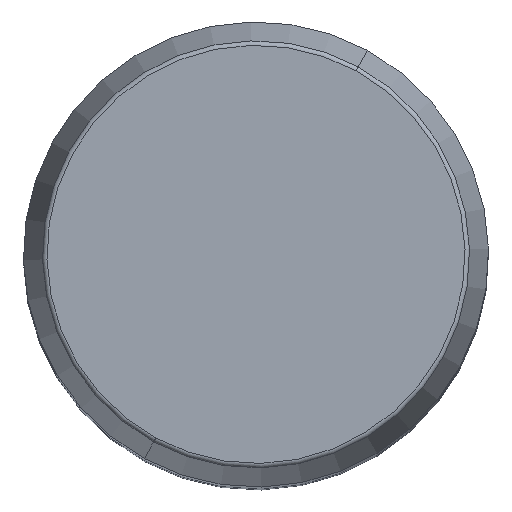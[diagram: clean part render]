
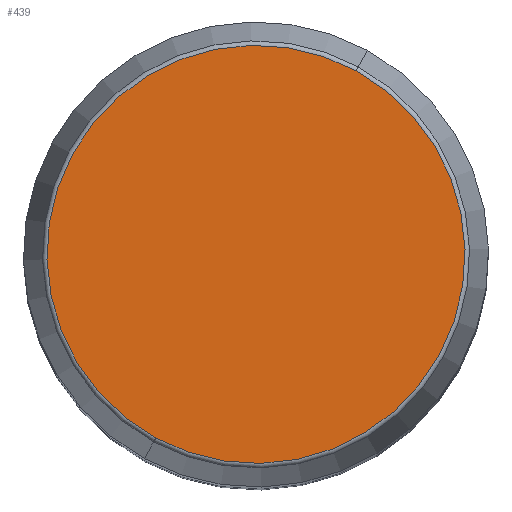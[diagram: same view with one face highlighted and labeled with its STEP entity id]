
A CAD part, top view. The second image highlights one B-rep face of the part: STEP entity #439.
In plain terms, the highlighted planar face has unit normal (0, 0, 1).
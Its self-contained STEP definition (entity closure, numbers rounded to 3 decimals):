
#391=CARTESIAN_POINT('Vertex',(-21.548,-39.443,400.)) ;
#394=CARTESIAN_POINT('Axis2P3D Location',(0.,0.,400.)) ;
#398=CARTESIAN_POINT('Vertex',(21.548,39.443,400.)) ;
#418=CARTESIAN_POINT('Axis2P3D Location',(0.,0.,400.)) ;
#430=CARTESIAN_POINT('Axis2P3D Location',(0.,44.945,400.)) ;
#395=DIRECTION('Axis2P3D Direction',(0.,0.,-1.)) ;
#419=DIRECTION('Axis2P3D Direction',(0.,0.,-1.)) ;
#431=DIRECTION('Axis2P3D Direction',(0.,0.,-1.)) ;
#432=DIRECTION('Axis2P3D XDirection',(1.,0.,0.)) ;
#396=AXIS2_PLACEMENT_3D('Circle Axis2P3D',#394,#395,$) ;
#420=AXIS2_PLACEMENT_3D('Circle Axis2P3D',#418,#419,$) ;
#433=AXIS2_PLACEMENT_3D('Plane Axis2P3D',#430,#431,#432) ;
#436=ORIENTED_EDGE('',*,*,#422,.F.) ;
#437=ORIENTED_EDGE('',*,*,#400,.F.) ;
#439=ADVANCED_FACE('PartBody',(#438),#434,.F.) ;
#397=CIRCLE('generated circle',#396,44.945) ;
#421=CIRCLE('generated circle',#420,44.945) ;
#400=EDGE_CURVE('',#392,#399,#397,.T.) ;
#422=EDGE_CURVE('',#399,#392,#421,.T.) ;
#435=EDGE_LOOP('',(#436,#437)) ;
#438=FACE_OUTER_BOUND('',#435,.T.) ;
#434=PLANE('Plane',#433) ;
#392=VERTEX_POINT('',#391) ;
#399=VERTEX_POINT('',#398) ;
